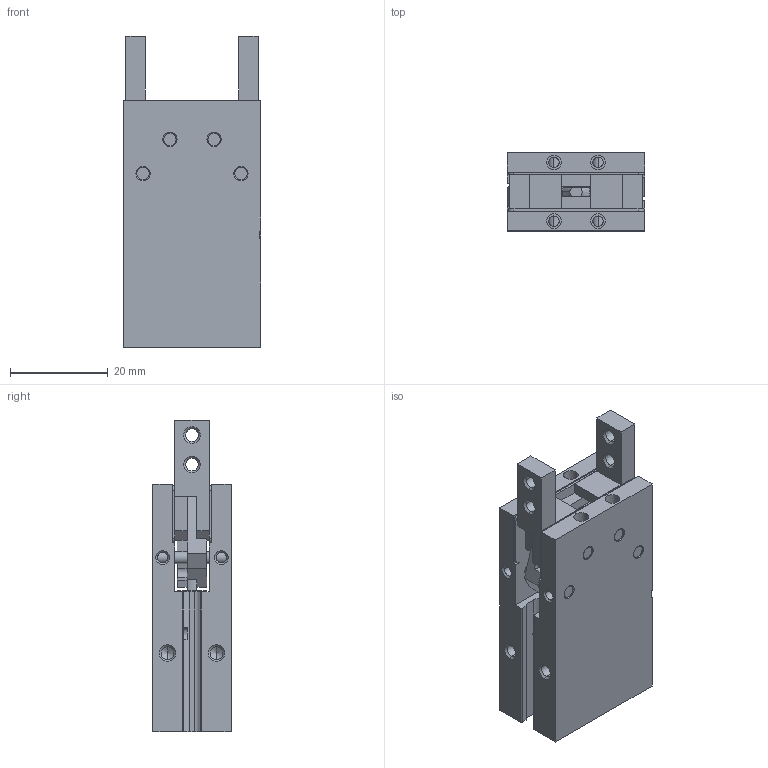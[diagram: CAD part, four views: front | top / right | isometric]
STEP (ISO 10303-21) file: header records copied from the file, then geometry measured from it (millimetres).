
FILE_DESCRIPTION (( 'STEP AP214' ), '1' );
FILE_NAME ('MCHB-12.STEP', '2013-10-22T20:47:36', ( 'user' ), ( '' ), 'SwSTEP 2.0', 'SolidWorks 2009', '' );
FILE_SCHEMA (( 'AUTOMOTIVE_DESIGN' ));
Length unit declared in the file: millimetre
Products named in the file (1): MCHB-12
Bounding box: 28 x 16 x 63.5 mm (x, y, z)
Volume: 18478.5 mm3; surface area: 10165.1 mm2
Topology: 1 solids, 10 shells, 412 faces, 1067 edges, 664 vertices
Faces by surface type: cylinder 174, plane 155, cone 83
Entity records: 13144 total; most frequent: CARTESIAN_POINT 2820, DIRECTION 2173, ORIENTED_EDGE 2078, EDGE_CURVE 1039, AXIS2_PLACEMENT_3D 777, VERTEX_POINT 664, VECTOR 619, LINE 619
